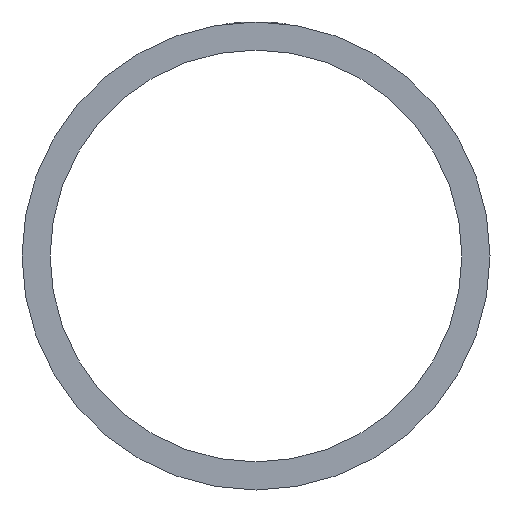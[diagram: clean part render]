
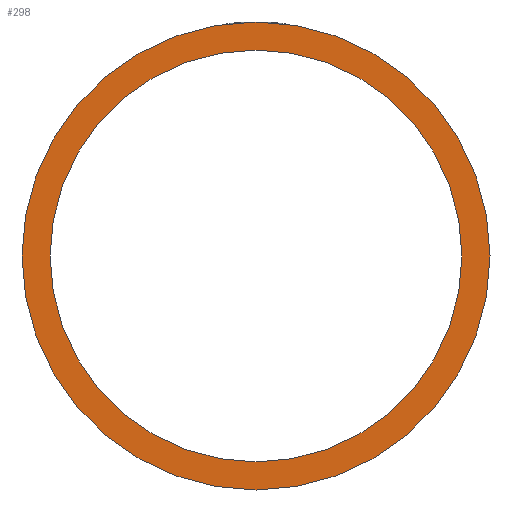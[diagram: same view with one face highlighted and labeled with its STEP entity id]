
A CAD part, front view. The second image highlights one B-rep face of the part: STEP entity #298.
In plain terms, the highlighted planar face has unit normal (0, -1, 0).
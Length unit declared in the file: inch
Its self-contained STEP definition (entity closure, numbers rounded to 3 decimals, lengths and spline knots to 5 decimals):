
#6 = EDGE_CURVE ( 'NONE', #270, #276, #249, .T. ) ;
#8 = EDGE_CURVE ( 'NONE', #279, #243, #271, .T. ) ;
#11 = CARTESIAN_POINT ( 'NONE',  ( 0., 0., 0. ) ) ;
#12 = DIRECTION ( 'NONE',  ( 0., 1., 0. ) ) ;
#14 = DIRECTION ( 'NONE',  ( 1., 0., 0. ) ) ;
#35 = CARTESIAN_POINT ( 'NONE',  ( 0., 0., 0. ) ) ;
#36 = DIRECTION ( 'NONE',  ( 0., 1., 0. ) ) ;
#37 = DIRECTION ( 'NONE',  ( 1., 0., 0. ) ) ;
#46 = CARTESIAN_POINT ( 'NONE',  ( 0., 0., 0. ) ) ;
#47 = DIRECTION ( 'NONE',  ( 0., 1., 0. ) ) ;
#70 = DIRECTION ( 'NONE',  ( 0., 0., 1. ) ) ;
#127 = EDGE_CURVE ( 'NONE', #243, #279, #259, .T. ) ;
#128 = EDGE_CURVE ( 'NONE', #276, #270, #267, .T. ) ;
#149 = FACE_BOUND ( 'NONE', #209, .T. ) ;
#188 = ORIENTED_EDGE ( 'NONE', *, *, #6, .F. ) ;
#190 = EDGE_LOOP ( 'NONE', ( #268, #188 ) ) ;
#209 = EDGE_LOOP ( 'NONE', ( #239, #280 ) ) ;
#239 = ORIENTED_EDGE ( 'NONE', *, *, #127, .T. ) ;
#243 = VERTEX_POINT ( 'NONE', #370 ) ;
#249 = CIRCLE ( 'NONE', #289, 1. ) ;
#259 = CIRCLE ( 'NONE', #291, 0.88 ) ;
#267 = CIRCLE ( 'NONE', #292, 1. ) ;
#268 = ORIENTED_EDGE ( 'NONE', *, *, #128, .F. ) ;
#270 = VERTEX_POINT ( 'NONE', #373 ) ;
#271 = CIRCLE ( 'NONE', #290, 0.88 ) ;
#276 = VERTEX_POINT ( 'NONE', #379 ) ;
#279 = VERTEX_POINT ( 'NONE', #355 ) ;
#280 = ORIENTED_EDGE ( 'NONE', *, *, #8, .T. ) ;
#281 = FACE_OUTER_BOUND ( 'NONE', #190, .T. ) ;
#289 = AXIS2_PLACEMENT_3D ( 'NONE', #46, #47, #70 ) ;
#290 = AXIS2_PLACEMENT_3D ( 'NONE', #35, #36, #37 ) ;
#291 = AXIS2_PLACEMENT_3D ( 'NONE', #11, #12, #14 ) ;
#292 = AXIS2_PLACEMENT_3D ( 'NONE', #465, #436, #454 ) ;
#298 = ADVANCED_FACE ( 'NONE', ( #281, #149 ), #386, .F. ) ;
#325 = AXIS2_PLACEMENT_3D ( 'NONE', #387, #345, #414 ) ;
#345 = DIRECTION ( 'NONE',  ( 0., 1., 0. ) ) ;
#355 = CARTESIAN_POINT ( 'NONE',  ( 0., 0., 0.88 ) ) ;
#370 = CARTESIAN_POINT ( 'NONE',  ( 0., 0., -0.88 ) ) ;
#373 = CARTESIAN_POINT ( 'NONE',  ( 0., 0., 1. ) ) ;
#379 = CARTESIAN_POINT ( 'NONE',  ( 0., 0., -1. ) ) ;
#386 = PLANE ( 'NONE',  #325 ) ;
#387 = CARTESIAN_POINT ( 'NONE',  ( 0., 0., 0. ) ) ;
#414 = DIRECTION ( 'NONE',  ( 0., 0., 1. ) ) ;
#436 = DIRECTION ( 'NONE',  ( 0., 1., 0. ) ) ;
#454 = DIRECTION ( 'NONE',  ( 0., 0., 1. ) ) ;
#465 = CARTESIAN_POINT ( 'NONE',  ( 0., 0., 0. ) ) ;
